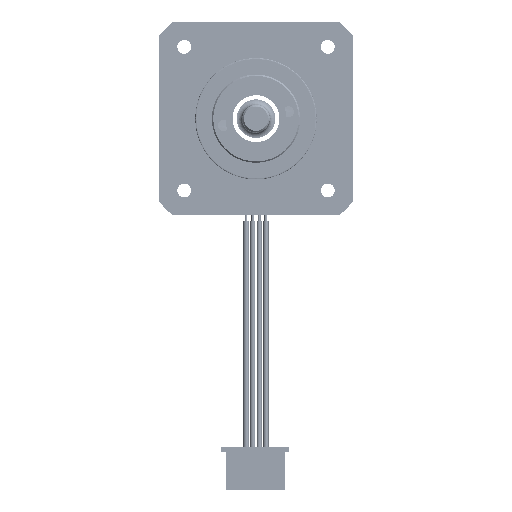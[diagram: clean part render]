
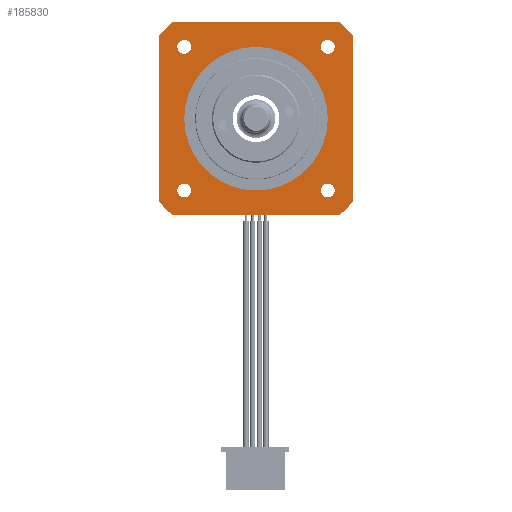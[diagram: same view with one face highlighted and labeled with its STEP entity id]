
A CAD part, front view. The second image highlights one B-rep face of the part: STEP entity #185830.
In plain terms, the highlighted planar face has unit normal (0, -1, 0) as drawn and (-1, 0, 0) by its records, which use the part's own axes.
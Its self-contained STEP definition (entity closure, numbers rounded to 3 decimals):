
#184586=CARTESIAN_POINT('',(0.,15.078,-17.5));
#184587=VERTEX_POINT('',#184586);
#184666=CARTESIAN_POINT('',(0.,-15.078,-17.5));
#184667=VERTEX_POINT('',#184666);
#184674=CARTESIAN_POINT('',(0.,15.078,-17.5));
#184675=DIRECTION('',(0.,-1.,0.));
#184676=VECTOR('',#184675,30.157);
#184677=LINE('',#184674,#184676);
#184678=EDGE_CURVE('',#184587,#184667,#184677,.T.);
#184762=CARTESIAN_POINT('',(0.,17.5,-15.078));
#184763=VERTEX_POINT('',#184762);
#184770=CARTESIAN_POINT('',(0.,17.5,15.078));
#184771=VERTEX_POINT('',#184770);
#184772=CARTESIAN_POINT('',(0.,17.5,15.078));
#184773=DIRECTION('',(0.,0.,-1.));
#184774=VECTOR('',#184773,30.157);
#184775=LINE('',#184772,#184774);
#184776=EDGE_CURVE('',#184771,#184763,#184775,.T.);
#184794=CARTESIAN_POINT('',(0.,-15.078,17.5));
#184795=VERTEX_POINT('',#184794);
#184874=CARTESIAN_POINT('',(0.,15.078,17.5));
#184875=VERTEX_POINT('',#184874);
#184882=CARTESIAN_POINT('',(0.,-15.078,17.5));
#184883=DIRECTION('',(0.,1.,0.));
#184884=VECTOR('',#184883,30.157);
#184885=LINE('',#184882,#184884);
#184886=EDGE_CURVE('',#184795,#184875,#184885,.T.);
#184898=CARTESIAN_POINT('',(0.,-17.5,-15.078));
#184899=VERTEX_POINT('',#184898);
#184978=CARTESIAN_POINT('',(0.,-17.5,15.078));
#184979=VERTEX_POINT('',#184978);
#184986=CARTESIAN_POINT('',(0.,-17.5,-15.078));
#184987=DIRECTION('',(0.,0.,1.));
#184988=VECTOR('',#184987,30.157);
#184989=LINE('',#184986,#184988);
#184990=EDGE_CURVE('',#184899,#184979,#184989,.T.);
#185008=CARTESIAN_POINT('',(0.,0.,0.));
#185009=DIRECTION('',(0.,-0.653,-0.758));
#185010=DIRECTION('',(-1.,0.,0.));
#185011=AXIS2_PLACEMENT_3D('',#185008,#185010,#185009);
#185012=CIRCLE('',#185011,23.1);
#185013=EDGE_CURVE('',#184667,#184899,#185012,.T.);
#185032=CARTESIAN_POINT('',(0.,0.,0.));
#185033=DIRECTION('',(0.,0.758,-0.653));
#185034=DIRECTION('',(-1.,0.,0.));
#185035=AXIS2_PLACEMENT_3D('',#185032,#185034,#185033);
#185036=CIRCLE('',#185035,23.1);
#185037=EDGE_CURVE('',#184763,#184587,#185036,.T.);
#185056=CARTESIAN_POINT('',(0.,0.,0.));
#185057=DIRECTION('',(0.,0.653,0.758));
#185058=DIRECTION('',(-1.,0.,0.));
#185059=AXIS2_PLACEMENT_3D('',#185056,#185058,#185057);
#185060=CIRCLE('',#185059,23.1);
#185061=EDGE_CURVE('',#184875,#184771,#185060,.T.);
#185080=CARTESIAN_POINT('',(0.,0.,0.));
#185081=DIRECTION('',(0.,-0.758,0.653));
#185082=DIRECTION('',(-1.,0.,0.));
#185083=AXIS2_PLACEMENT_3D('',#185080,#185082,#185081);
#185084=CIRCLE('',#185083,23.1);
#185085=EDGE_CURVE('',#184979,#184795,#185084,.T.);
#185760=CARTESIAN_POINT('',(0.,0.,0.));
#185761=DIRECTION('',(0.,0.,-1.));
#185762=DIRECTION('',(-1.,0.,0.));
#185763=AXIS2_PLACEMENT_3D('',#185760,#185762,#185761);
#185764=PLANE('',#185763);
#185765=ORIENTED_EDGE('',*,*,#184776,.T.);
#185766=ORIENTED_EDGE('',*,*,#185037,.T.);
#185767=ORIENTED_EDGE('',*,*,#184678,.T.);
#185768=ORIENTED_EDGE('',*,*,#185013,.T.);
#185769=ORIENTED_EDGE('',*,*,#184990,.T.);
#185770=ORIENTED_EDGE('',*,*,#185085,.T.);
#185771=ORIENTED_EDGE('',*,*,#184886,.T.);
#185772=ORIENTED_EDGE('',*,*,#185061,.T.);
#185773=EDGE_LOOP('',(#185765,#185766,#185767,#185768,#185769,#185770,#185771,#185772));
#185774=FACE_OUTER_BOUND('',#185773,.T.);
#185775=CARTESIAN_POINT('',(0.,0.,-13.));
#185776=VERTEX_POINT('',#185775);
#185777=CARTESIAN_POINT('',(0.,0.,0.));
#185778=DIRECTION('',(0.,0.,-1.));
#185779=DIRECTION('',(-1.,0.,0.));
#185780=AXIS2_PLACEMENT_3D('',#185777,#185779,#185778);
#185781=CIRCLE('',#185780,13.);
#185782=EDGE_CURVE('',#185776,#185776,#185781,.T.);
#185783=ORIENTED_EDGE('E116',*,*,#185782,.F.);
#185784=EDGE_LOOP('',(#185783));
#185785=FACE_BOUND('',#185784,.T.);
#185786=CARTESIAN_POINT('',(0.,-13.,14.25));
#185787=VERTEX_POINT('',#185786);
#185788=CARTESIAN_POINT('',(0.,-13.,13.));
#185789=DIRECTION('',(0.,0.,1.));
#185790=DIRECTION('',(1.,0.,0.));
#185791=AXIS2_PLACEMENT_3D('',#185788,#185790,#185789);
#185792=CIRCLE('',#185791,1.25);
#185793=EDGE_CURVE('',#185787,#185787,#185792,.T.);
#185794=ORIENTED_EDGE('E130',*,*,#185793,.T.);
#185795=EDGE_LOOP('',(#185794));
#185796=FACE_BOUND('',#185795,.T.);
#185797=CARTESIAN_POINT('',(0.,-13.,-11.75));
#185798=VERTEX_POINT('',#185797);
#185799=CARTESIAN_POINT('',(0.,-13.,-13.));
#185800=DIRECTION('',(0.,0.,1.));
#185801=DIRECTION('',(1.,0.,0.));
#185802=AXIS2_PLACEMENT_3D('',#185799,#185801,#185800);
#185803=CIRCLE('',#185802,1.25);
#185804=EDGE_CURVE('',#185798,#185798,#185803,.T.);
#185805=ORIENTED_EDGE('E132',*,*,#185804,.T.);
#185806=EDGE_LOOP('',(#185805));
#185807=FACE_BOUND('',#185806,.T.);
#185808=CARTESIAN_POINT('',(0.,13.,14.25));
#185809=VERTEX_POINT('',#185808);
#185810=CARTESIAN_POINT('',(0.,13.,13.));
#185811=DIRECTION('',(0.,0.,1.));
#185812=DIRECTION('',(1.,0.,0.));
#185813=AXIS2_PLACEMENT_3D('',#185810,#185812,#185811);
#185814=CIRCLE('',#185813,1.25);
#185815=EDGE_CURVE('',#185809,#185809,#185814,.T.);
#185816=ORIENTED_EDGE('E128',*,*,#185815,.T.);
#185817=EDGE_LOOP('',(#185816));
#185818=FACE_BOUND('',#185817,.T.);
#185819=CARTESIAN_POINT('',(0.,13.,-11.75));
#185820=VERTEX_POINT('',#185819);
#185821=CARTESIAN_POINT('',(0.,13.,-13.));
#185822=DIRECTION('',(0.,0.,1.));
#185823=DIRECTION('',(1.,0.,0.));
#185824=AXIS2_PLACEMENT_3D('',#185821,#185823,#185822);
#185825=CIRCLE('',#185824,1.25);
#185826=EDGE_CURVE('',#185820,#185820,#185825,.T.);
#185827=ORIENTED_EDGE('E126',*,*,#185826,.T.);
#185828=EDGE_LOOP('',(#185827));
#185829=FACE_BOUND('',#185828,.T.);
#185830=ADVANCED_FACE('F42',(#185774,#185785,#185796,#185807,#185818,#185829),#185764,.T.);
